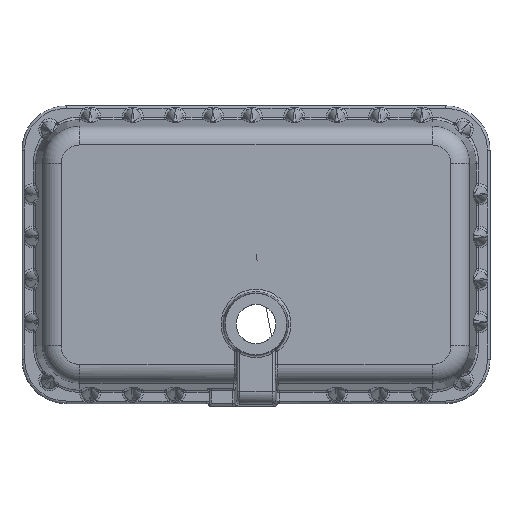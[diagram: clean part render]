
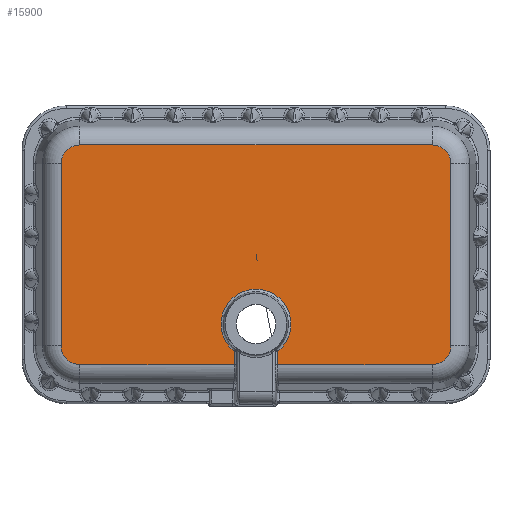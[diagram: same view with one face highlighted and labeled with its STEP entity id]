
A CAD part, front view. The second image highlights one B-rep face of the part: STEP entity #15900.
In plain terms, the highlighted planar face has unit normal (0, -1, 0).
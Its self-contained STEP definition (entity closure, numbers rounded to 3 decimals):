
#170 = VERTEX_POINT ( 'NONE', #14377 ) ;
#784 = CARTESIAN_POINT ( 'NONE',  ( 0., 0., -129.042 ) ) ;
#1535 = AXIS2_PLACEMENT_3D ( 'NONE', #13937, #10928, #19002 ) ;
#1624 = CARTESIAN_POINT ( 'NONE',  ( -207., 0., -129.042 ) ) ;
#1673 = CARTESIAN_POINT ( 'NONE',  ( -229.042, 0., 0. ) ) ;
#2406 = ORIENTED_EDGE ( 'NONE', *, *, #32858, .T. ) ;
#2471 = CARTESIAN_POINT ( 'NONE',  ( 207., 0., 129.042 ) ) ;
#2685 = ORIENTED_EDGE ( 'NONE', *, *, #12229, .T. ) ;
#2757 = VERTEX_POINT ( 'NONE', #33144 ) ;
#2970 = AXIS2_PLACEMENT_3D ( 'NONE', #12907, #20509, #10400 ) ;
#3597 = VERTEX_POINT ( 'NONE', #12598 ) ;
#3694 = VECTOR ( 'NONE', #30504, 1000. ) ;
#4296 = DIRECTION ( 'NONE',  ( 0., -1., 0. ) ) ;
#4715 = VECTOR ( 'NONE', #13387, 1000. ) ;
#4752 = ORIENTED_EDGE ( 'NONE', *, *, #5967, .T. ) ;
#5217 = AXIS2_PLACEMENT_3D ( 'NONE', #21709, #31985, #19177 ) ;
#5625 = CARTESIAN_POINT ( 'NONE',  ( -229.042, 0., 107. ) ) ;
#5967 = EDGE_CURVE ( 'NONE', #23316, #3597, #24755, .T. ) ;
#5973 = VECTOR ( 'NONE', #17326, 1000. ) ;
#6421 = EDGE_CURVE ( 'NONE', #22889, #9280, #7000, .T. ) ;
#6657 = DIRECTION ( 'NONE',  ( 0., 0., -1. ) ) ;
#6719 = CIRCLE ( 'NONE', #2970, 22.042 ) ;
#6990 = VECTOR ( 'NONE', #26413, 1000. ) ;
#7000 = LINE ( 'NONE', #19642, #26459 ) ;
#7078 = LINE ( 'NONE', #7241, #7409 ) ;
#7241 = CARTESIAN_POINT ( 'NONE',  ( -25.646, 0., -113.766 ) ) ;
#7409 = VECTOR ( 'NONE', #22597, 1000. ) ;
#7849 = DIRECTION ( 'NONE',  ( 0., 1., 0. ) ) ;
#7965 = CARTESIAN_POINT ( 'NONE',  ( -207., 0., 129.042 ) ) ;
#8872 = VERTEX_POINT ( 'NONE', #29406 ) ;
#8935 = CARTESIAN_POINT ( 'NONE',  ( -25.646, 0., -129.042 ) ) ;
#9280 = VERTEX_POINT ( 'NONE', #7965 ) ;
#9362 = EDGE_CURVE ( 'NONE', #9280, #23316, #31607, .T. ) ;
#9617 = VECTOR ( 'NONE', #24487, 1000. ) ;
#9722 = ORIENTED_EDGE ( 'NONE', *, *, #6421, .T. ) ;
#10169 = ORIENTED_EDGE ( 'NONE', *, *, #9362, .T. ) ;
#10268 = EDGE_CURVE ( 'NONE', #11382, #17939, #7078, .T. ) ;
#10400 = DIRECTION ( 'NONE',  ( 0., 0., -1. ) ) ;
#10538 = LINE ( 'NONE', #784, #4715 ) ;
#10928 = DIRECTION ( 'NONE',  ( 0., -1., 0. ) ) ;
#11382 = VERTEX_POINT ( 'NONE', #8935 ) ;
#11953 = EDGE_CURVE ( 'NONE', #8872, #19999, #27525, .T. ) ;
#12061 = DIRECTION ( 'NONE',  ( -1., 0., 0. ) ) ;
#12229 = EDGE_CURVE ( 'NONE', #24486, #2757, #17359, .T. ) ;
#12317 = CIRCLE ( 'NONE', #32240, 41.073 ) ;
#12598 = CARTESIAN_POINT ( 'NONE',  ( -229.042, 0., -107. ) ) ;
#12625 = CARTESIAN_POINT ( 'NONE',  ( 229.042, 0., 0. ) ) ;
#12907 = CARTESIAN_POINT ( 'NONE',  ( 207., 0., 107. ) ) ;
#13337 = CIRCLE ( 'NONE', #1535, 22.042 ) ;
#13387 = DIRECTION ( 'NONE',  ( 1., 0., 0. ) ) ;
#13937 = CARTESIAN_POINT ( 'NONE',  ( -207., 0., -107. ) ) ;
#13946 = FACE_OUTER_BOUND ( 'NONE', #30019, .T. ) ;
#14377 = CARTESIAN_POINT ( 'NONE',  ( 25.646, 0., -113.582 ) ) ;
#14406 = CARTESIAN_POINT ( 'NONE',  ( 207., 0., -107. ) ) ;
#14521 = DIRECTION ( 'NONE',  ( 0., -1., 0. ) ) ;
#15900 = ADVANCED_FACE ( 'NONE', ( #13946 ), #24240, .T. ) ;
#16402 = CIRCLE ( 'NONE', #20713, 22.042 ) ;
#16597 = VERTEX_POINT ( 'NONE', #1624 ) ;
#17326 = DIRECTION ( 'NONE',  ( 0., 0., -1. ) ) ;
#17359 = LINE ( 'NONE', #12625, #3694 ) ;
#17939 = VERTEX_POINT ( 'NONE', #19103 ) ;
#18115 = CARTESIAN_POINT ( 'NONE',  ( 0., 0., -81.5 ) ) ;
#18448 = DIRECTION ( 'NONE',  ( 0., 0., -1. ) ) ;
#19002 = DIRECTION ( 'NONE',  ( 0., 0., -1. ) ) ;
#19103 = CARTESIAN_POINT ( 'NONE',  ( -25.646, 0., -113.582 ) ) ;
#19177 = DIRECTION ( 'NONE',  ( 0., 0., -1. ) ) ;
#19642 = CARTESIAN_POINT ( 'NONE',  ( 0., 0., 129.042 ) ) ;
#19812 = EDGE_CURVE ( 'NONE', #2757, #22889, #6719, .T. ) ;
#19999 = VERTEX_POINT ( 'NONE', #31608 ) ;
#20064 = EDGE_CURVE ( 'NONE', #19999, #24486, #16402, .T. ) ;
#20509 = DIRECTION ( 'NONE',  ( 0., -1., 0. ) ) ;
#20713 = AXIS2_PLACEMENT_3D ( 'NONE', #14406, #4296, #6657 ) ;
#21005 = CARTESIAN_POINT ( 'NONE',  ( 25.646, 0., -129.042 ) ) ;
#21709 = CARTESIAN_POINT ( 'NONE',  ( 0., 0., 0. ) ) ;
#22597 = DIRECTION ( 'NONE',  ( 0., 0., 1. ) ) ;
#22889 = VERTEX_POINT ( 'NONE', #2471 ) ;
#23012 = ORIENTED_EDGE ( 'NONE', *, *, #10268, .T. ) ;
#23316 = VERTEX_POINT ( 'NONE', #5625 ) ;
#23539 = AXIS2_PLACEMENT_3D ( 'NONE', #24646, #14521, #26670 ) ;
#24240 = PLANE ( 'NONE',  #5217 ) ;
#24486 = VERTEX_POINT ( 'NONE', #32698 ) ;
#24487 = DIRECTION ( 'NONE',  ( 1., 0., 0. ) ) ;
#24646 = CARTESIAN_POINT ( 'NONE',  ( -207., 0., 107. ) ) ;
#24755 = LINE ( 'NONE', #1673, #5973 ) ;
#25243 = EDGE_CURVE ( 'NONE', #170, #8872, #28612, .T. ) ;
#26413 = DIRECTION ( 'NONE',  ( 0., 0., -1. ) ) ;
#26459 = VECTOR ( 'NONE', #12061, 1000. ) ;
#26670 = DIRECTION ( 'NONE',  ( 0., 0., -1. ) ) ;
#27259 = ORIENTED_EDGE ( 'NONE', *, *, #31123, .T. ) ;
#27525 = LINE ( 'NONE', #29884, #9617 ) ;
#27735 = ORIENTED_EDGE ( 'NONE', *, *, #20064, .T. ) ;
#28612 = LINE ( 'NONE', #21005, #6990 ) ;
#29072 = ORIENTED_EDGE ( 'NONE', *, *, #30616, .T. ) ;
#29406 = CARTESIAN_POINT ( 'NONE',  ( 25.646, 0., -129.042 ) ) ;
#29884 = CARTESIAN_POINT ( 'NONE',  ( 0., 0., -129.042 ) ) ;
#30019 = EDGE_LOOP ( 'NONE', ( #2406, #31557, #31758, #27735, #2685, #32403, #9722, #10169, #4752, #27259, #29072, #23012 ) ) ;
#30504 = DIRECTION ( 'NONE',  ( 0., 0., 1. ) ) ;
#30616 = EDGE_CURVE ( 'NONE', #16597, #11382, #10538, .T. ) ;
#31123 = EDGE_CURVE ( 'NONE', #3597, #16597, #13337, .T. ) ;
#31557 = ORIENTED_EDGE ( 'NONE', *, *, #25243, .T. ) ;
#31607 = CIRCLE ( 'NONE', #23539, 22.042 ) ;
#31608 = CARTESIAN_POINT ( 'NONE',  ( 207., 0., -129.042 ) ) ;
#31758 = ORIENTED_EDGE ( 'NONE', *, *, #11953, .T. ) ;
#31985 = DIRECTION ( 'NONE',  ( 0., -1., 0. ) ) ;
#32240 = AXIS2_PLACEMENT_3D ( 'NONE', #18115, #7849, #18448 ) ;
#32403 = ORIENTED_EDGE ( 'NONE', *, *, #19812, .T. ) ;
#32698 = CARTESIAN_POINT ( 'NONE',  ( 229.042, 0., -107. ) ) ;
#32858 = EDGE_CURVE ( 'NONE', #17939, #170, #12317, .T. ) ;
#33144 = CARTESIAN_POINT ( 'NONE',  ( 229.042, 0., 107. ) ) ;
